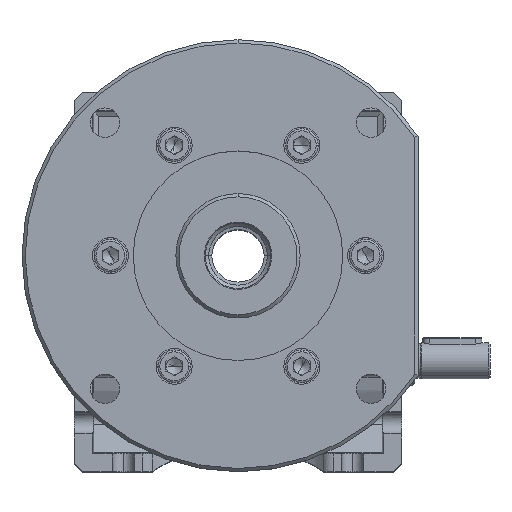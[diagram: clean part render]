
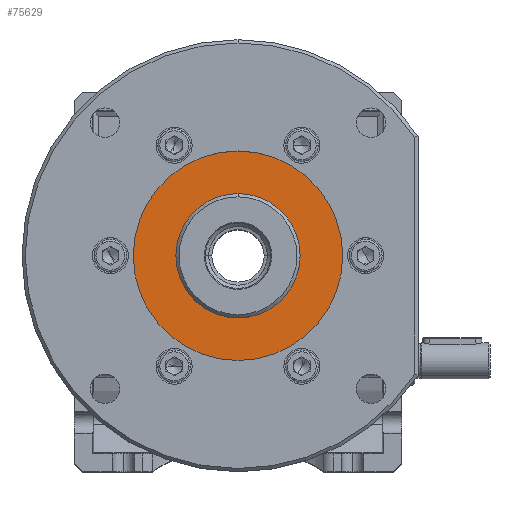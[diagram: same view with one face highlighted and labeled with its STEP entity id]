
A CAD part, top view. The second image highlights one B-rep face of the part: STEP entity #75629.
In plain terms, the highlighted planar face has unit normal (0, 0, 1).
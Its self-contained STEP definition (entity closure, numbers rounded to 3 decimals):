
#2228 = CARTESIAN_POINT ( 'NONE',  ( 0., 0., 49. ) ) ;
#2886 = DIRECTION ( 'NONE',  ( 0., 0., -1. ) ) ;
#3485 = EDGE_CURVE ( 'NONE', #13294, #40728, #47064, .T. ) ;
#6947 = CARTESIAN_POINT ( 'NONE',  ( 0., 19., 49. ) ) ;
#6996 = DIRECTION ( 'NONE',  ( 0., 0., -1. ) ) ;
#7215 = AXIS2_PLACEMENT_3D ( 'NONE', #32789, #2886, #69058 ) ;
#7513 = EDGE_CURVE ( 'NONE', #40728, #13294, #33577, .T. ) ;
#8363 = FACE_OUTER_BOUND ( 'NONE', #59642, .T. ) ;
#8692 = ORIENTED_EDGE ( 'NONE', *, *, #3485, .F. ) ;
#11885 = AXIS2_PLACEMENT_3D ( 'NONE', #60919, #6996, #30977 ) ;
#13294 = VERTEX_POINT ( 'NONE', #27911 ) ;
#13488 = PLANE ( 'NONE',  #56221 ) ;
#16570 = CIRCLE ( 'NONE', #39176, 19. ) ;
#18771 = EDGE_CURVE ( 'NONE', #73151, #52667, #16570, .T. ) ;
#21405 = ORIENTED_EDGE ( 'NONE', *, *, #39609, .T. ) ;
#21496 = DIRECTION ( 'NONE',  ( 0., 0., -1. ) ) ;
#21647 = ORIENTED_EDGE ( 'NONE', *, *, #18771, .T. ) ;
#27911 = CARTESIAN_POINT ( 'NONE',  ( 0., 32., 49. ) ) ;
#28967 = CARTESIAN_POINT ( 'NONE',  ( 0., -32., 49. ) ) ;
#30361 = ORIENTED_EDGE ( 'NONE', *, *, #7513, .F. ) ;
#30977 = DIRECTION ( 'NONE',  ( -1., 0., 0. ) ) ;
#32304 = CIRCLE ( 'NONE', #72584, 19. ) ;
#32332 = DIRECTION ( 'NONE',  ( 0., -1., 0. ) ) ;
#32789 = CARTESIAN_POINT ( 'NONE',  ( 0., 0., 49. ) ) ;
#33548 = CARTESIAN_POINT ( 'NONE',  ( 0., 0., 49. ) ) ;
#33577 = CIRCLE ( 'NONE', #7215, 32. ) ;
#39176 = AXIS2_PLACEMENT_3D ( 'NONE', #2228, #21496, #50627 ) ;
#39609 = EDGE_CURVE ( 'NONE', #52667, #73151, #32304, .T. ) ;
#40728 = VERTEX_POINT ( 'NONE', #28967 ) ;
#45767 = DIRECTION ( 'NONE',  ( 0., -1., 0. ) ) ;
#47064 = CIRCLE ( 'NONE', #11885, 32. ) ;
#50627 = DIRECTION ( 'NONE',  ( 0., -1., 0. ) ) ;
#50780 = EDGE_LOOP ( 'NONE', ( #21647, #21405 ) ) ;
#52667 = VERTEX_POINT ( 'NONE', #6947 ) ;
#56221 = AXIS2_PLACEMENT_3D ( 'NONE', #74121, #67432, #32332 ) ;
#59642 = EDGE_LOOP ( 'NONE', ( #8692, #30361 ) ) ;
#60919 = CARTESIAN_POINT ( 'NONE',  ( 0., 0., 49. ) ) ;
#63122 = DIRECTION ( 'NONE',  ( 0., 0., -1. ) ) ;
#66005 = FACE_BOUND ( 'NONE', #50780, .T. ) ;
#67432 = DIRECTION ( 'NONE',  ( 0., 0., -1. ) ) ;
#69058 = DIRECTION ( 'NONE',  ( -1., 0., 0. ) ) ;
#69272 = CARTESIAN_POINT ( 'NONE',  ( 0., -19., 49. ) ) ;
#72584 = AXIS2_PLACEMENT_3D ( 'NONE', #33548, #63122, #45767 ) ;
#73151 = VERTEX_POINT ( 'NONE', #69272 ) ;
#74121 = CARTESIAN_POINT ( 'NONE',  ( 0., 46.75, 49. ) ) ;
#75629 = ADVANCED_FACE ( 'NONE', ( #66005, #8363 ), #13488, .F. ) ;
